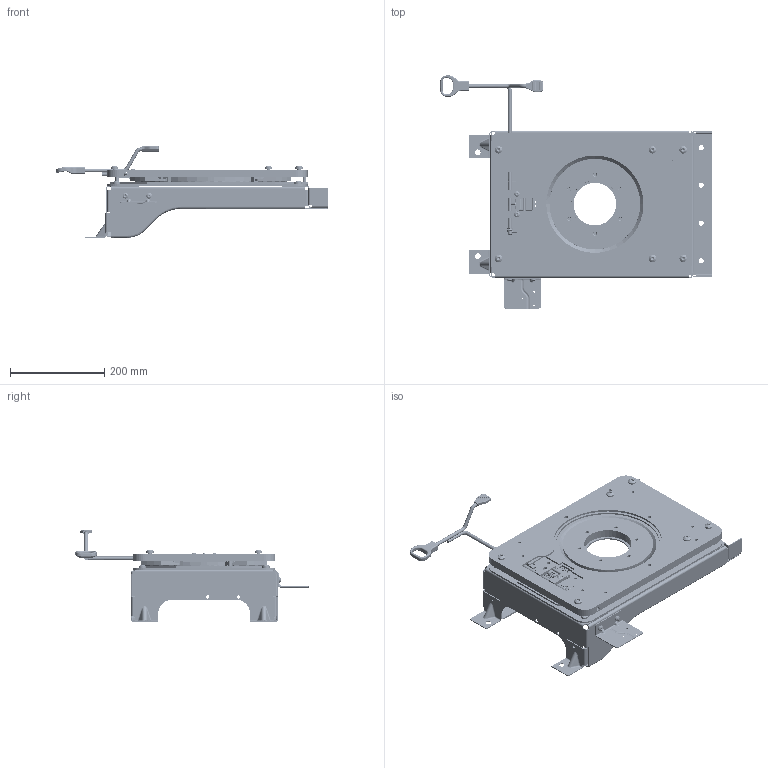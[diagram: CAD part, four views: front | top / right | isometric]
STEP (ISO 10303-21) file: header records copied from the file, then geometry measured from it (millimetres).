
FILE_DESCRIPTION(('CATIA V5 STEP Exchange'),'2;1');
FILE_NAME('D:\交接\张长江\21-Benz H6\光华荣昌转盘数据\H6 转盘\转盘用整椅数据 A9609109920\sample\H6 转盘夏季测试样件方案_20240617\样件数据\SHT0017298L 驾驶员转盘底支架总成.stp','2024-06-19T08:30:19+00:00',('none'),('none'),'CATIA Version 5 Release 20 GA (IN-10)','CATIA V5 STEP AP203 Edition 2','none');
FILE_SCHEMA(('AP203_CONFIGURATION_CONTROLLED_3D_DESIGN_OF_MECHANICAL_PARTS_AND_ASSEMBLIES_MIM_LF { 1 0 10303 403 2 1 2}'));
Products named in the file (33): SHT0017298; SHT0010844-for H6 swivel; SHT0010851-for H6 swivel; SHT0010854-for H6 swivel; SHT0010852-for H6 swivel; SHT0010853-for H6 swivel; SHT0010845-for H6 swivel; SHT0010846-for H6 swivel; SHT0010847-for H6 swivel; SHT0010848-for H6 swivel; SHT0010850-for H6 swivel; SHT0010844-H-for H6 swivel; BFA0010062; SHT0017294-18; BFA0010021; BFA0000316; 上部; SHT0017294-3; SHT0017294-6; SHT0017294-15; BFA0010089; SHT0017294-11; SHT0017294-10; SHT0017294-14; Q5280320; Q5280420; 下部; SHT0017294-1; SHT0017294-7; SHT0017294-2; SHT0017294-4; SHT0017294-5; SHT0017294-000
Assembly tree (81 placements, depth 4):
  SHT0017298
    SHT0010844-for H6 swivel
      SHT0010851-for H6 swivel
      SHT0010854-for H6 swivel
      SHT0010852-for H6 swivel
      SHT0010853-for H6 swivel
      SHT0010845-for H6 swivel
        SHT0010846-for H6 swivel
      SHT0010847-for H6 swivel
        SHT0010848-for H6 swivel
      SHT0010850-for H6 swivel
      SHT0010844-H-for H6 swivel
      BFA0010062  x4
      SHT0017294-18
      BFA0010021  x2
      BFA0000316  x2
    上部
      SHT0017294-3
      SHT0017294-6  x4
      SHT0017294-15  x4
      BFA0010062  x6
      BFA0010089  x6
      SHT0017294-11
      SHT0017294-10
      SHT0017294-14  x2
      BFA0010021  x2
      BFA0000316  x2
      Q5280320
      Q5280420  x2
    下部
      SHT0017294-1
      SHT0017294-7  x4
      SHT0017294-2
      SHT0017294-4
      SHT0017294-5
      SHT0017294-000
      BFA0010089  x12
      BFA0010062  x6
Bounding box: 575 x 493.5 x 194 mm (x, y, z)
Volume: 2605357.4 mm3; surface area: 1664725.7 mm2
Topology: 167 solids, 167 shells, 5039 faces, 13579 edges, 8269 vertices
Faces by surface type: cylinder 1930, plane 1572, cone 602, sphere 314, torus 228, bspline 225, extrusion 94, revolution 74
Entity records: 104200 total; most frequent: CARTESIAN_POINT 39865, ORIENTED_EDGE 14202, DIRECTION 10154, EDGE_CURVE 7061, AXIS2_PLACEMENT_3D 4584, VERTEX_POINT 4473, EDGE_LOOP 3204, VECTOR 3180
